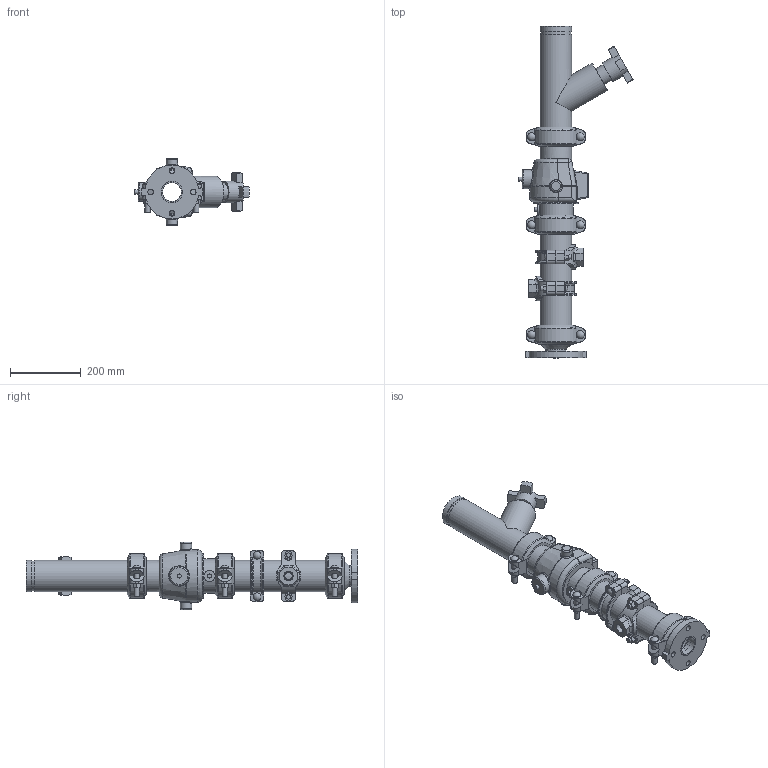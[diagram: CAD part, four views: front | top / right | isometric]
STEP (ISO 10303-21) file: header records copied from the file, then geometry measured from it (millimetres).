
FILE_DESCRIPTION(/* description */ ('VIC DVI PUMP DROP VERT S/383 (OGSxFLG)','CAx-IF Rec.Pracs.---Representation and Presentation of Product Manufacturing Information (PMI)---4.0---2014-10-13'),/* implementation_level */ '2;1');
FILE_NAME(/* name */ 'C:\Users\Public\Documents\Victaulic.Temp\A849\Victaulic_IPS_Vertical DVI_CL 150_Series 383 (OGSxFLG)_03.0x02.0 (80x50).stp',/* time_stamp */ '2022-07-25T11:38:18+02:00',/* author */ ('Vjadhav'),/* organization */ ('Victaulic'),/* preprocessor_version */ 'ST-DEVELOPER v18',/* originating_system */ 'Autodesk Inventor 2020',/* authorisation */ '');
FILE_SCHEMA (('AP242_MANAGED_MODEL_BASED_3D_ENGINEERING_MIM_LF { 1 0 10303 442 1 1 4 }'));
Length unit declared in the file: inch
Products named in the file (10): 383-03.0x02.0; 741-02.0; 050-03.0x02.0; Pipe-03.0; 177N-03.0; 716H-03.0; 789-03.0; 920NT-03.0x0.75; 920N LOWER HSG-03.0; 920NT-03.0x0.75_1
Assembly tree (12 placements, depth 3):
  383-03.0x02.0
    741-02.0
    050-03.0x02.0
    177N-03.0  x3
    Pipe-03.0
    716H-03.0
    789-03.0
    920NT-03.0x0.75  x2
      920N LOWER HSG-03.0
      920NT-03.0x0.75_1
Bounding box: 324.61 x 939.8 x 190.5 mm (x, y, z)
Volume: 5454667.3 mm3; surface area: 986494 mm2
Topology: 12 solids, 12 shells, 696 faces, 1851 edges, 1222 vertices
Faces by surface type: plane 350, cylinder 245, torus 35, bspline 35, sphere 16, cone 15
Full cylindrical faces by diameter (mm): 11.43 x2, 12.7 x8, 14.605 x6, 15.875 x4, 20.93 x2, 21.982 x4, 22.225 x6, 26.924 x2, 31.75 x2, 32.004 x1, 50.8 x1, 52.502 x1, 53.975 x1, 57.15 x1, 60.325 x3, 60.96 x1, 76.2 x3, 77.927 x3, 80.772 x1, 84.938 x7, 88.9 x18, 97.028 x1, 127 x1
Entity records: 14688 total; most frequent: CARTESIAN_POINT 3919, DIRECTION 2156, ORIENTED_EDGE 2068, EDGE_CURVE 1034, AXIS2_PLACEMENT_3D 836, VERTEX_POINT 682, LINE 484, VECTOR 484
